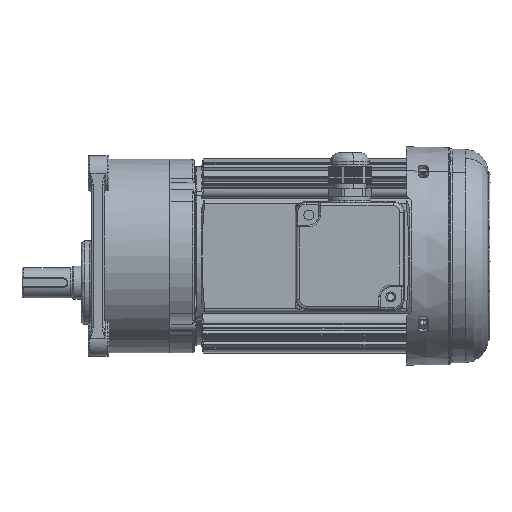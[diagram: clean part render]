
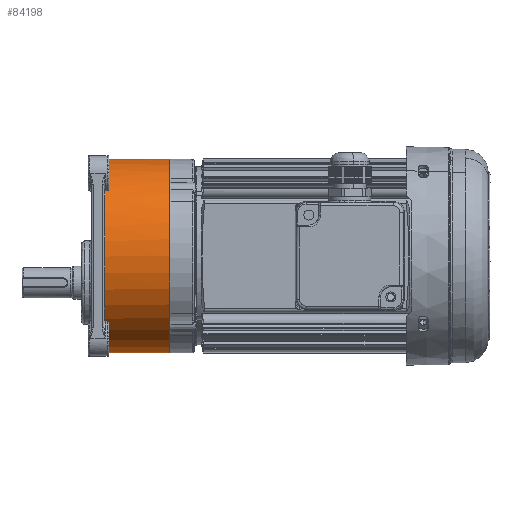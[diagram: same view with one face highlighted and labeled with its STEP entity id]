
A CAD part, left-side view. The second image highlights one B-rep face of the part: STEP entity #84198.
In plain terms, the highlighted cylindrical face has radius 58 mm (diameter 116 mm), a partial arc.
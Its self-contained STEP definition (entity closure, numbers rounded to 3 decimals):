
#5240 = EDGE_CURVE ( 'NONE', #13767, #13797, #49384, .T. ) ;
#5527 = EDGE_CURVE ( 'NONE', #24593, #13573, #6663, .T. ) ;
#5530 = EDGE_CURVE ( 'NONE', #24546, #13797, #6672, .T. ) ;
#5531 = EDGE_CURVE ( 'NONE', #24593, #24546, #108435, .T. ) ;
#5532 = EDGE_CURVE ( 'NONE', #13573, #13767, #108439, .T. ) ;
#6663 = LINE ( 'NONE', #6664, #99769 ) ;
#6664 = CARTESIAN_POINT ( 'NONE',  ( 0., 0., -58. ) ) ;
#6665 = DIRECTION ( 'NONE',  ( 0., 1., 0. ) ) ;
#6671 = CARTESIAN_POINT ( 'NONE',  ( 0., 1.5, 0. ) ) ;
#6672 = LINE ( 'NONE', #6673, #99772 ) ;
#6673 = CARTESIAN_POINT ( 'NONE',  ( 0., 0., 58. ) ) ;
#6674 = DIRECTION ( 'NONE',  ( 0., 1., 0. ) ) ;
#6675 = DIRECTION ( 'NONE',  ( 0., 1., 0. ) ) ;
#6676 = DIRECTION ( 'NONE',  ( 0., 0., -1. ) ) ;
#6677 = CARTESIAN_POINT ( 'NONE',  ( 0., 40.5, 0. ) ) ;
#6678 = DIRECTION ( 'NONE',  ( 0., 1., 0. ) ) ;
#6679 = DIRECTION ( 'NONE',  ( 1., 0., 0. ) ) ;
#13573 = VERTEX_POINT ( 'NONE', #77809 ) ;
#13767 = VERTEX_POINT ( 'NONE', #77976 ) ;
#13797 = VERTEX_POINT ( 'NONE', #78006 ) ;
#14520 = CARTESIAN_POINT ( 'NONE',  ( 0., 40.5, 0. ) ) ;
#14522 = DIRECTION ( 'NONE',  ( 0., 1., 0. ) ) ;
#14524 = DIRECTION ( 'NONE',  ( 1., 0., 0. ) ) ;
#24546 = VERTEX_POINT ( 'NONE', #34624 ) ;
#24593 = VERTEX_POINT ( 'NONE', #34672 ) ;
#34624 = CARTESIAN_POINT ( 'NONE',  ( 0., 1.5, 58. ) ) ;
#34672 = CARTESIAN_POINT ( 'NONE',  ( 0., 1.5, -58. ) ) ;
#48727 = EDGE_LOOP ( 'NONE', ( #94055, #92766, #94081, #93986, #92775 ) ) ;
#49384 = CIRCLE ( 'NONE', #99622, 58. ) ;
#53413 = CYLINDRICAL_SURFACE ( 'NONE', #53423, 58. ) ;
#53423 = AXIS2_PLACEMENT_3D ( 'NONE', #71124, #71125, #71126 ) ;
#53450 = FACE_OUTER_BOUND ( 'NONE', #48727, .T. ) ;
#71124 = CARTESIAN_POINT ( 'NONE',  ( 0., 0., 0. ) ) ;
#71125 = DIRECTION ( 'NONE',  ( 0., 1., 0. ) ) ;
#71126 = DIRECTION ( 'NONE',  ( 0., 0., 1. ) ) ;
#77809 = CARTESIAN_POINT ( 'NONE',  ( 0., 40.5, -58. ) ) ;
#77976 = CARTESIAN_POINT ( 'NONE',  ( -57.999, 40.5, -0.323 ) ) ;
#78006 = CARTESIAN_POINT ( 'NONE',  ( 0., 40.5, 58. ) ) ;
#84198 = ADVANCED_FACE ( 'NONE', ( #53450 ), #53413, .T. ) ;
#92766 = ORIENTED_EDGE ( 'NONE', *, *, #5531, .T. ) ;
#92775 = ORIENTED_EDGE ( 'NONE', *, *, #5532, .F. ) ;
#93986 = ORIENTED_EDGE ( 'NONE', *, *, #5240, .F. ) ;
#94055 = ORIENTED_EDGE ( 'NONE', *, *, #5527, .F. ) ;
#94081 = ORIENTED_EDGE ( 'NONE', *, *, #5530, .T. ) ;
#99622 = AXIS2_PLACEMENT_3D ( 'NONE', #14520, #14522, #14524 ) ;
#99769 = VECTOR ( 'NONE', #6665, 1000. ) ;
#99770 = AXIS2_PLACEMENT_3D ( 'NONE', #6677, #6678, #6679 ) ;
#99771 = AXIS2_PLACEMENT_3D ( 'NONE', #6671, #6675, #6676 ) ;
#99772 = VECTOR ( 'NONE', #6674, 1000. ) ;
#108435 = CIRCLE ( 'NONE', #99771, 58. ) ;
#108439 = CIRCLE ( 'NONE', #99770, 58. ) ;
